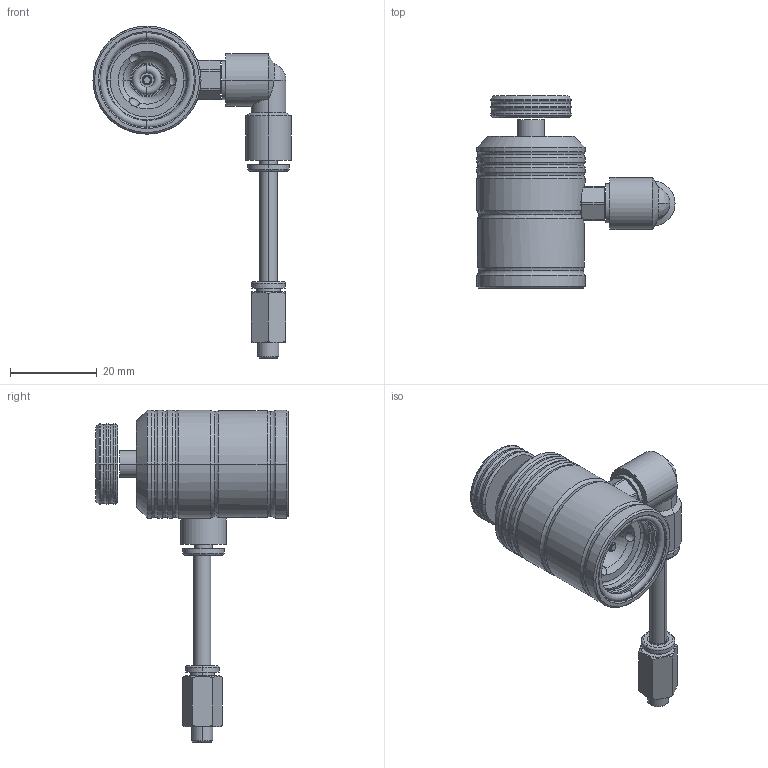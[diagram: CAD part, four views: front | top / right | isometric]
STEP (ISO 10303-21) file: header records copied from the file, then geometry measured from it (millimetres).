
FILE_DESCRIPTION (( 'STEP AP214' ), '1' );
FILE_NAME ('S11460_KIT_DDS_SeaVent_VAC-FILL_NO-VALVE.STEP', '2025-09-12T19:27:15', ( '' ), ( '' ), 'SwSTEP 2.0', 'SolidWorks 2024', '' );
FILE_SCHEMA (( 'AUTOMOTIVE_DESIGN' ));
Length unit declared in the file: millimetre
Products named in the file (1): S11460_KIT_DDS_SeaVent_VAC-FILL_NO-VALVE
Bounding box: 45.62 x 44.28 x 76.45 mm (x, y, z)
Surface area: 7892.8 mm2 (no closed solid volume)
Topology: 0 solids, 14 shells, 207 faces, 485 edges, 294 vertices
Faces by surface type: cylinder 72, torus 54, cone 39, plane 33, bspline 6, sphere 3
Entity records: 6996 total; most frequent: CARTESIAN_POINT 2295, DIRECTION 1083, ORIENTED_EDGE 891, AXIS2_PLACEMENT_3D 483, EDGE_CURVE 483, VERTEX_POINT 294, CIRCLE 281, EDGE_LOOP 226
